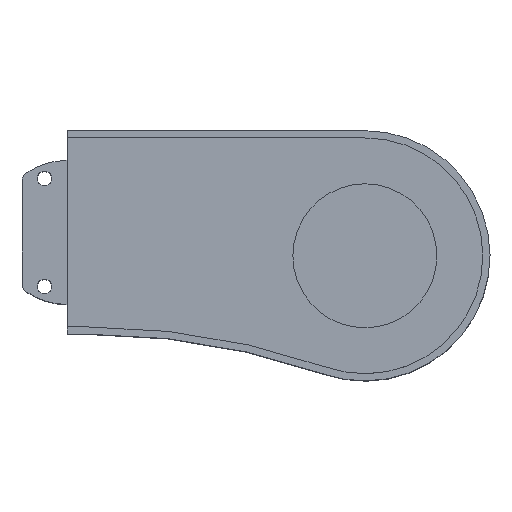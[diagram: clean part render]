
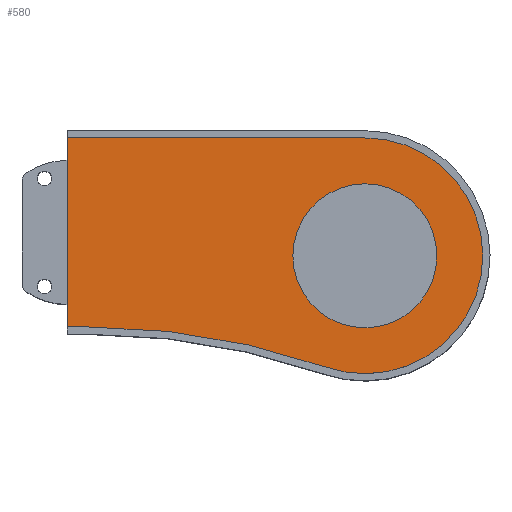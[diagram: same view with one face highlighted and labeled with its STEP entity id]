
A CAD part, top view. The second image highlights one B-rep face of the part: STEP entity #580.
In plain terms, the highlighted planar face has unit normal (0, 0, 1).
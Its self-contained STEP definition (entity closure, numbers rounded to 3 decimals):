
#5 = LINE ( 'NONE', #184, #606 ) ;
#35 = CARTESIAN_POINT ( 'NONE',  ( -223.571, -109., 60. ) ) ;
#86 = CARTESIAN_POINT ( 'NONE',  ( -223.571, -513., 60. ) ) ;
#103 = CARTESIAN_POINT ( 'NONE',  ( -235., -16.5, 60. ) ) ;
#155 = VERTEX_POINT ( 'NONE', #1311 ) ;
#167 = CARTESIAN_POINT ( 'NONE',  ( -69.5, -4., 60. ) ) ;
#184 = CARTESIAN_POINT ( 'NONE',  ( -223.571, -109., 60. ) ) ;
#203 = DIRECTION ( 'NONE',  ( 0., 0., 1. ) ) ;
#217 = DIRECTION ( 'NONE',  ( -1., 0., 0. ) ) ;
#252 = ORIENTED_EDGE ( 'NONE', *, *, #1290, .T. ) ;
#323 = VECTOR ( 'NONE', #509, 1000. ) ;
#343 = CARTESIAN_POINT ( 'NONE',  ( -90.995, -131.373, 60. ) ) ;
#349 = ORIENTED_EDGE ( 'NONE', *, *, #573, .F. ) ;
#357 = CARTESIAN_POINT ( 'NONE',  ( -29.5, -69.5, 60. ) ) ;
#368 = AXIS2_PLACEMENT_3D ( 'NONE', #86, #203, #1331 ) ;
#373 = CARTESIAN_POINT ( 'NONE',  ( -235., -109., 60. ) ) ;
#376 = CIRCLE ( 'NONE', #492, 65.5 ) ;
#410 = ORIENTED_EDGE ( 'NONE', *, *, #885, .T. ) ;
#429 = CARTESIAN_POINT ( 'NONE',  ( -235., -4., 60. ) ) ;
#446 = ORIENTED_EDGE ( 'NONE', *, *, #1420, .F. ) ;
#462 = AXIS2_PLACEMENT_3D ( 'NONE', #878, #1439, #217 ) ;
#492 = AXIS2_PLACEMENT_3D ( 'NONE', #939, #958, #1281 ) ;
#509 = DIRECTION ( 'NONE',  ( -1., 0., 0. ) ) ;
#517 = CARTESIAN_POINT ( 'NONE',  ( -69.5, -69.5, 60. ) ) ;
#573 = EDGE_CURVE ( 'NONE', #1432, #1429, #5, .T. ) ;
#579 = EDGE_LOOP ( 'NONE', ( #349, #987, #446, #410, #682 ) ) ;
#580 = ADVANCED_FACE ( 'NONE', ( #968, #1320 ), #616, .F. ) ;
#606 = VECTOR ( 'NONE', #750, 1000. ) ;
#616 = PLANE ( 'NONE',  #1185 ) ;
#627 = CIRCLE ( 'NONE', #368, 404. ) ;
#682 = ORIENTED_EDGE ( 'NONE', *, *, #741, .T. ) ;
#727 = CARTESIAN_POINT ( 'NONE',  ( -69.5, -4., 60. ) ) ;
#741 = EDGE_CURVE ( 'NONE', #1078, #1429, #980, .T. ) ;
#750 = DIRECTION ( 'NONE',  ( -1., 0., 0. ) ) ;
#776 = ORIENTED_EDGE ( 'NONE', *, *, #1099, .T. ) ;
#792 = DIRECTION ( 'NONE',  ( 0., -1., 0. ) ) ;
#809 = VERTEX_POINT ( 'NONE', #727 ) ;
#836 = CIRCLE ( 'NONE', #846, 40. ) ;
#846 = AXIS2_PLACEMENT_3D ( 'NONE', #1138, #1027, #1383 ) ;
#878 = CARTESIAN_POINT ( 'NONE',  ( -69.5, -69.5, 60. ) ) ;
#885 = EDGE_CURVE ( 'NONE', #809, #1078, #898, .T. ) ;
#898 = LINE ( 'NONE', #167, #323 ) ;
#939 = CARTESIAN_POINT ( 'NONE',  ( -69.5, -69.5, 60. ) ) ;
#958 = DIRECTION ( 'NONE',  ( 0., 0., -1. ) ) ;
#968 = FACE_BOUND ( 'NONE', #1157, .T. ) ;
#980 = LINE ( 'NONE', #103, #1241 ) ;
#987 = ORIENTED_EDGE ( 'NONE', *, *, #1116, .F. ) ;
#1027 = DIRECTION ( 'NONE',  ( 0., 0., -1. ) ) ;
#1078 = VERTEX_POINT ( 'NONE', #429 ) ;
#1099 = EDGE_CURVE ( 'NONE', #155, #1242, #1441, .T. ) ;
#1116 = EDGE_CURVE ( 'NONE', #1247, #1432, #627, .T. ) ;
#1138 = CARTESIAN_POINT ( 'NONE',  ( -69.5, -69.5, 60. ) ) ;
#1157 = EDGE_LOOP ( 'NONE', ( #252, #776 ) ) ;
#1185 = AXIS2_PLACEMENT_3D ( 'NONE', #517, #1304, #1416 ) ;
#1241 = VECTOR ( 'NONE', #792, 1000. ) ;
#1242 = VERTEX_POINT ( 'NONE', #357 ) ;
#1247 = VERTEX_POINT ( 'NONE', #343 ) ;
#1281 = DIRECTION ( 'NONE',  ( -1., 0., 0. ) ) ;
#1290 = EDGE_CURVE ( 'NONE', #1242, #155, #836, .T. ) ;
#1304 = DIRECTION ( 'NONE',  ( 0., 0., -1. ) ) ;
#1311 = CARTESIAN_POINT ( 'NONE',  ( -109.5, -69.5, 60. ) ) ;
#1320 = FACE_OUTER_BOUND ( 'NONE', #579, .T. ) ;
#1331 = DIRECTION ( 'NONE',  ( 1., 0., 0. ) ) ;
#1383 = DIRECTION ( 'NONE',  ( -1., 0., 0. ) ) ;
#1416 = DIRECTION ( 'NONE',  ( -1., 0., 0. ) ) ;
#1420 = EDGE_CURVE ( 'NONE', #809, #1247, #376, .T. ) ;
#1429 = VERTEX_POINT ( 'NONE', #373 ) ;
#1432 = VERTEX_POINT ( 'NONE', #35 ) ;
#1439 = DIRECTION ( 'NONE',  ( 0., 0., -1. ) ) ;
#1441 = CIRCLE ( 'NONE', #462, 40. ) ;
